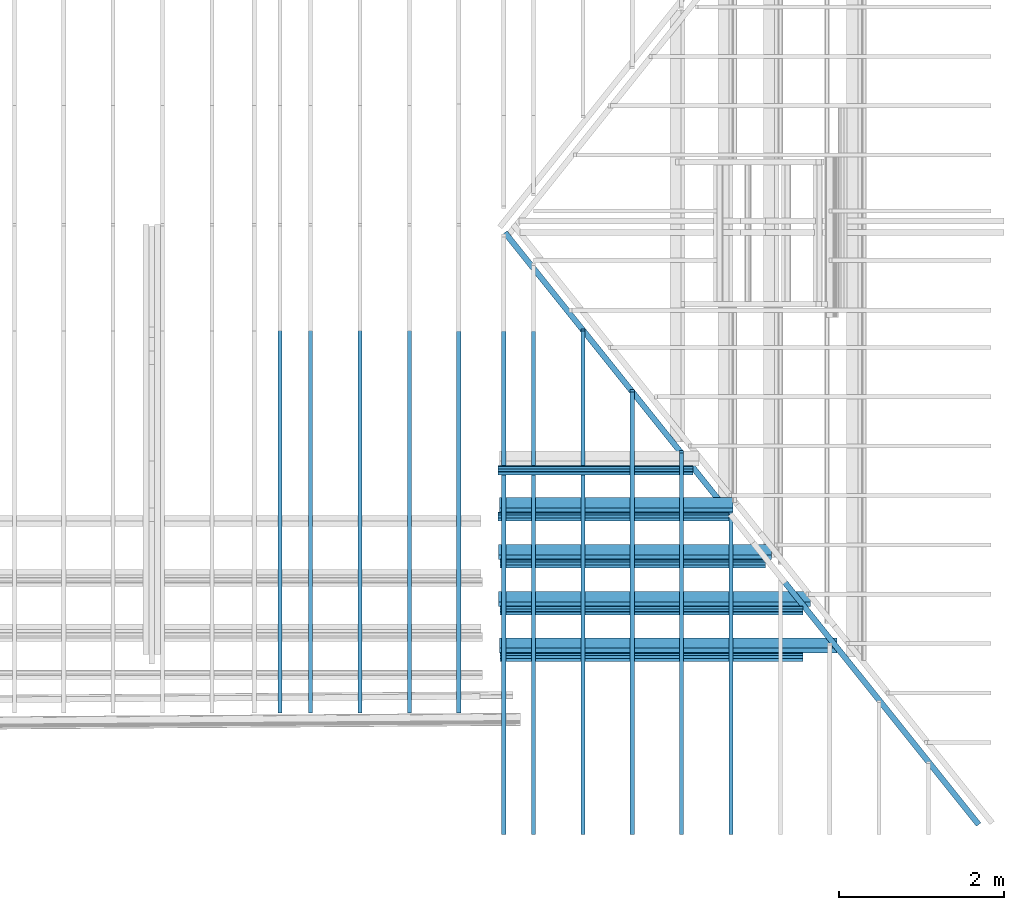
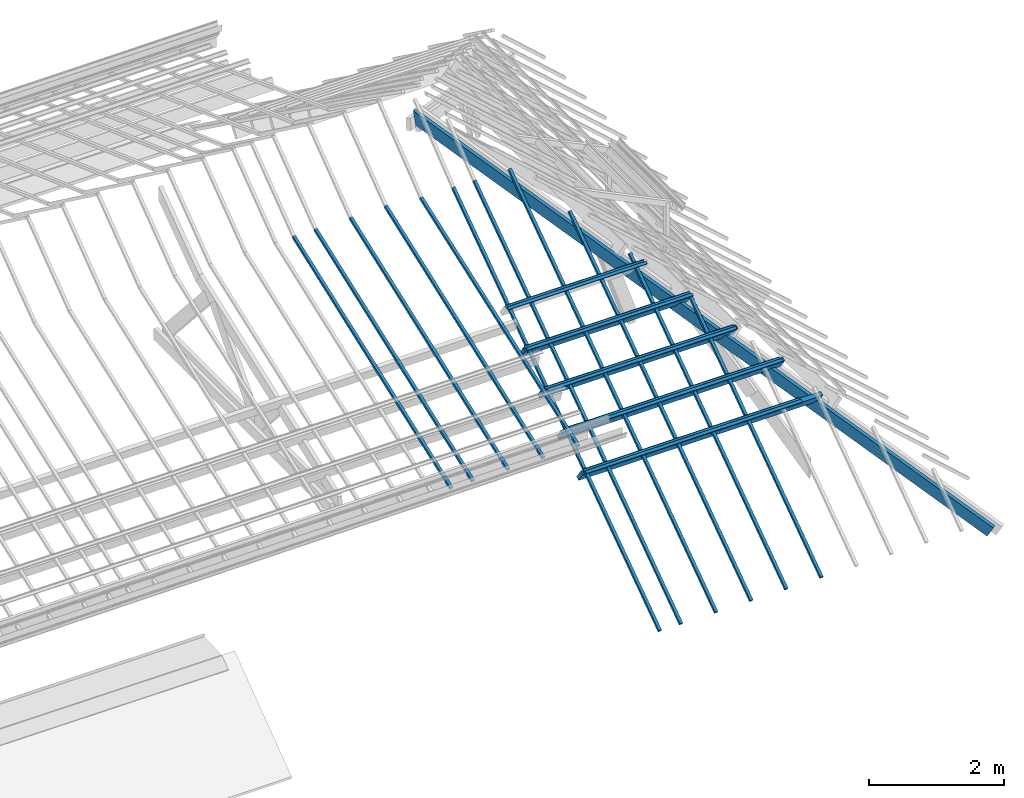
# One storey, part 10 of 18: 21 beams.
"""IFC2X3 building model written with IfcOpenShell, lengths in centimetres."""

from ifc_helpers import new_model, entity, si_unit, converted_unit, direction, frame, frame_2d, origin, origin_2d_with_axis, place, context, subcontext, project, spatial, polyline, circle_curve, parameter, trimmed, segment, composite_curve, rectangle, outline, extrude, clip, halfspace, material, type_object, element, save


model = new_model("IFC2X3")

# Units and contexts
model_context = context("Model", 3, precision=0.001, world=frame((0.0, 0.0, 13090.0)), true_north=direction((6.123233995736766e-17, 1.0)))
body_context = subcontext(model_context, "Body", "Model", "MODEL_VIEW")
ifc_project = project(units=[si_unit("LENGTHUNIT", "METRE", prefix="CENTI"), si_unit("AREAUNIT", "SQUARE_METRE"), si_unit("VOLUMEUNIT", "CUBIC_METRE"), converted_unit("PLANEANGLEUNIT", "DEGREE", entity("IfcPlaneAngleMeasure", 0.017453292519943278), si_unit("PLANEANGLEUNIT", "RADIAN"), dimensions=[0, 0, 0, 0, 0, 0, 0])], contexts=[model_context])

# Site, building, storey
site_placement = place(None, origin())
site = spatial("IfcSite", under=ifc_project, at=site_placement, Name="Default", CompositionType="ELEMENT")
building_placement = place(site_placement, origin())
building = spatial("IfcBuilding", under=site, at=building_placement, Name="e 39 logements et 22 maisons relais", CompositionType="ELEMENT")
storey_placement = place(building_placement, frame((0.0, 0.0, 610.0)))
storey = spatial("IfcBuildingStorey", under=building, at=storey_placement, Name="R+2", CompositionType="ELEMENT", Elevation=609.9999999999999)

# Beams
ifc_material_1 = material(Name="Bois - Bois de construction de dimensions courantes")
beam_type_1 = type_object("IfcBeamType", Name="Poutre - Bois de construction de dimensions courantes:70 220", PredefinedType="BEAM")
beam_1_placement = place(storey_placement, frame((286.63480771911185, -537.9764218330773, -101.94834767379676)))
element("IfcBeam", 1, at=beam_1_placement, inside=storey, type_object=beam_type_1, material=ifc_material_1, Name="Poutre - Bois de construction de dimensions courantes:70 220", ObjectType="Poutre - Bois de construction de dimensions courantes:70 220", context=body_context, shape_type="SweptSolid", body=[
    extrude(rectangle(XDim=21.999999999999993, YDim=7.000000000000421, at=frame_2d((4.440892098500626e-14, -3.086420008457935e-14), x_axis=(1.0, 0.0))), frame((322.5262084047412, 6.309340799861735, -9.010672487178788), z_axis=(1.0, 0.0, 0.0), x_axis=(0.0, -0.5735764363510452, 0.8191520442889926)), (0.0, 0.0, 1.0), 410.27423770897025),
])
beam_2_placement = place(storey_placement, frame((286.6348077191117, -481.59967238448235, -62.29634533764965)))
element("IfcBeam", 2, at=beam_2_placement, inside=storey, type_object=beam_type_1, material=ifc_material_1, Name="Poutre - Bois de construction de dimensions courantes:70 220", ObjectType="Poutre - Bois de construction de dimensions courantes:70 220", context=body_context, shape_type="SweptSolid", body=[
    extrude(rectangle(XDim=21.999999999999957, YDim=7.000000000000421, at=frame_2d((-6.039613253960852e-14, 9.325873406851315e-15), x_axis=(1.0, 0.0))), frame((321.2675552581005, 6.309340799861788, -9.010672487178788), z_axis=(1.0, 0.0, 0.0), x_axis=(0.0, -0.5735764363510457, 0.819152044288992)), (0.0, 0.0, 1.0), 379.18316140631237),
])
beam_3_placement = place(storey_placement, frame((286.634807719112, -424.59492606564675, -22.20264791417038)))
element("IfcBeam", 3, at=beam_3_placement, inside=storey, type_object=beam_type_1, material=ifc_material_1, Name="Poutre - Bois de construction de dimensions courantes:70 220", ObjectType="Poutre - Bois de construction de dimensions courantes:70 220", context=body_context, shape_type="SweptSolid", body=[
    extrude(rectangle(XDim=21.999999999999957, YDim=7.000000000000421, at=frame_2d((-6.039613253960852e-14, 9.325873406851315e-15), x_axis=(1.0, 0.0))), frame((321.26506323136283, 6.309340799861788, -9.010672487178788), z_axis=(1.0, 0.0, 0.0), x_axis=(0.0, -0.5735764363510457, 0.819152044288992)), (0.0, 0.0, 1.0), 332.0313144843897),
])
beam_4_placement = place(storey_placement, frame((287.2444077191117, -367.6594622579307, 17.842320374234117)))
element("IfcBeam", 4, at=beam_4_placement, inside=storey, type_object=beam_type_1, material=ifc_material_1, Name="Poutre - Bois de construction de dimensions courantes:70 220", ObjectType="Poutre - Bois de construction de dimensions courantes:70 220", context=body_context, shape_type="SweptSolid", body=[
    extrude(rectangle(XDim=21.999999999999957, YDim=7.000000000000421, at=frame_2d((6.039613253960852e-14, -8.881784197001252e-15), x_axis=(1.0, 0.0))), frame((321.9166084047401, 6.309340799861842, -9.010672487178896), z_axis=(1.0, 0.0, 0.0), x_axis=(0.0, -0.5735764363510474, 0.8191520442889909)), (0.0, 0.0, 1.0), 283.8100221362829),
])
beam_type_2 = type_object("IfcBeamType", Name="Poutre - Bois de construction de dimensions courantes:70 200", PredefinedType="BEAM")
beam_5_placement = place(storey_placement, frame((944.9774638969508, -441.27050194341, 41.26438352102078), z_axis=(0.30661229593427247, -0.3831192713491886, 0.8713257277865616), x_axis=(-0.5444394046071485, 0.6802898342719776, 0.49070508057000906)))
element("IfcBeam", 5, at=beam_5_placement, inside=storey, type_object=beam_type_2, material=ifc_material_1, Name="Poutre - Bois de construction de dimensions courantes:70 200", ObjectType="Poutre - Bois de construction de dimensions courantes:70 200", context=body_context, shape_type="Clipping", body=[
    clip(extrude(rectangle(XDim=20.000000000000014, YDim=7.0000000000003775, at=origin_2d_with_axis()), frame((-499.21667438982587, 0.0, -92.0), z_axis=(1.0, 0.0, 0.0), x_axis=(0.0, 0.0, -1.0)), (0.0, 0.0, 1.0), 1057.6298341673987), halfspace(frame((585.5654339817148, -1077.2700708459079, -48.048633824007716), z_axis=(0.780967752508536, 0.0, -0.6245713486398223), x_axis=(0.0, 1.0, 0.0)), False)),
])
ifc_material_2 = material(Name="neuf")
beam_type_3 = type_object("IfcBeamType", Name="panne z:panne z", PredefinedType="BEAM")
beam_6_placement = place(storey_placement, frame((286.63480771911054, -490.78321087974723, -53.0164760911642)))
element("IfcBeam", 6, at=beam_6_placement, inside=storey, type_object=beam_type_3, material=ifc_material_2, Name="panne z:panne z", ObjectType="panne z:panne z", context=body_context, shape_type="SweptSolid", body=[
    extrude(outline(composite_curve([segment(trimmed(circle_curve(frame_2d((-0.30000000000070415, 2.60000000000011), x_axis=(1.0, 0.0)), 0.39999999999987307), [parameter(0.0)], [parameter(90.00000000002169)], True, "PARAMETER"), True, "CONTINUOUS"), segment(polyline([(-0.3000000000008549, 3.0), (-4.600000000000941, 3.0)]), True, "CONTINUOUS"), segment(trimmed(circle_curve(frame_2d((-4.600000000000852, 2.599999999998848), x_axis=(0.0, 1.0)), 0.399999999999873), [parameter(0.0)], [parameter(90.00000000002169)], True, "PARAMETER"), True, "CONTINUOUS"), segment(polyline([(-5.0, 2.599999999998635), (-5.0, 1.0)]), True, "CONTINUOUS"), segment(polyline([(-5.0, 1.0), (-4.800000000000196, 1.0)]), True, "CONTINUOUS"), segment(polyline([(-4.800000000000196, 1.0), (-4.800000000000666, 2.5999999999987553)]), True, "CONTINUOUS"), segment(trimmed(circle_curve(frame_2d((-4.6000000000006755, 2.5999999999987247), x_axis=(-1.0, 0.0)), 0.20000000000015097), [parameter(270.0000000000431)], [parameter(0.0)], True, "PARAMETER"), False, "CONTINUOUS"), segment(polyline([(-4.6000000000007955, 2.7999999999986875), (-0.300000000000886, 2.799999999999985)]), True, "CONTINUOUS"), segment(trimmed(circle_curve(frame_2d((-0.30000000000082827, 2.5999999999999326), x_axis=(0.0, 1.0)), 0.20000000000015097), [parameter(270.0000000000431)], [parameter(0.0)], True, "PARAMETER"), False, "CONTINUOUS"), segment(polyline([(-0.10000000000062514, 2.600000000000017), (-0.0999999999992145, -2.5999999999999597)]), True, "CONTINUOUS"), segment(trimmed(circle_curve(frame_2d((0.300000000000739, -2.5999999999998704), x_axis=(-1.0, 0.0)), 0.3999999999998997), [parameter(0.0)], [parameter(90.00000000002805)], True, "PARAMETER"), True, "CONTINUOUS"), segment(polyline([(0.3000000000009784, -3.0), (4.600000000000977, -3.0)]), True, "CONTINUOUS"), segment(trimmed(circle_curve(frame_2d((4.6000000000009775, -2.599999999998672), x_axis=(0.0, -1.0)), 0.39999999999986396), [parameter(0.0)], [parameter(90.00000000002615)], True, "PARAMETER"), True, "CONTINUOUS"), segment(polyline([(5.0, -2.59999999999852), (5.0, -1.0)]), True, "CONTINUOUS"), segment(polyline([(5.0, -1.0), (4.800000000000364, -1.0)]), True, "CONTINUOUS"), segment(polyline([(4.8000000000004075, -1.0), (4.800000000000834, -2.5999999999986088)]), True, "CONTINUOUS"), segment(trimmed(circle_curve(frame_2d((4.600000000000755, -2.5999999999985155), x_axis=(1.0, 0.0)), 0.20000000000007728), [parameter(270.00000000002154)], [parameter(0.0)], True, "PARAMETER"), False, "CONTINUOUS"), segment(polyline([(4.600000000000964, -2.799999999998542), (0.3000000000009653, -2.799999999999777)]), True, "CONTINUOUS"), segment(trimmed(circle_curve(frame_2d((0.3000000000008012, -2.5999999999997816), x_axis=(0.0, -1.0)), 0.2000000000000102), [parameter(270.00000000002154)], [parameter(0.0)], True, "PARAMETER"), False, "CONTINUOUS"), segment(polyline([(0.10000000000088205, -2.5999999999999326), (0.09999999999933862, 2.6000000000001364)]), True, "CONTINUOUS")], self_intersect=False)), frame((323.098805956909, 1.538580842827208, -2.197321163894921), z_axis=(1.0, 0.0, 0.0), x_axis=(0.0, 0.8191520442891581, 0.5735764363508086)), (0.0, 0.0, 1.0), 368.7186327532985),
])
beam_7_placement = place(storey_placement, frame((286.6348077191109, -433.80298573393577, -13.236448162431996)))
element("IfcBeam", 7, at=beam_7_placement, inside=storey, type_object=beam_type_3, material=ifc_material_2, Name="panne z:panne z", ObjectType="panne z:panne z", context=body_context, shape_type="SweptSolid", body=[
    extrude(outline(composite_curve([segment(trimmed(circle_curve(frame_2d((-0.30000000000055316, 2.6000000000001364), x_axis=(1.0, 0.0)), 0.3999999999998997), [parameter(0.0)], [parameter(90.00000000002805)], True, "PARAMETER"), True, "CONTINUOUS"), segment(polyline([(-0.3000000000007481, 3.0), (-4.600000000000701, 3.0)]), True, "CONTINUOUS"), segment(trimmed(circle_curve(frame_2d((-4.600000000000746, 2.599999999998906), x_axis=(0.0, 1.0)), 0.39999999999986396), [parameter(0.0)], [parameter(90.00000000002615)], True, "PARAMETER"), True, "CONTINUOUS"), segment(polyline([(-5.0, 2.5999999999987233), (-5.0, 1.0)]), True, "CONTINUOUS"), segment(polyline([(-5.0, 1.0), (-4.8000000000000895, 1.0)]), True, "CONTINUOUS"), segment(polyline([(-4.8000000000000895, 1.0), (-4.800000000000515, 2.599999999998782)]), True, "CONTINUOUS"), segment(trimmed(circle_curve(frame_2d((-4.600000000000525, 2.5999999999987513), x_axis=(-1.0, 0.0)), 0.20000000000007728), [parameter(270.00000000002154)], [parameter(0.0)], True, "PARAMETER"), False, "CONTINUOUS"), segment(polyline([(-4.600000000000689, 2.7999999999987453), (-0.3000000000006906, 2.7999999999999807)]), True, "CONTINUOUS"), segment(trimmed(circle_curve(frame_2d((-0.3000000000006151, 2.600000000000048), x_axis=(0.0, 1.0)), 0.2000000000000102), [parameter(270.00000000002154)], [parameter(0.0)], True, "PARAMETER"), False, "CONTINUOUS"), segment(polyline([(-0.10000000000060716, 2.600000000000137), (-0.09999999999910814, -2.599999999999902)]), True, "CONTINUOUS"), segment(trimmed(circle_curve(frame_2d((0.3000000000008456, -2.5999999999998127), x_axis=(-1.0, 0.0)), 0.3999999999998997), [parameter(0.0)], [parameter(90.00000000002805)], True, "PARAMETER"), True, "CONTINUOUS"), segment(polyline([(0.30000000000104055, -3.0), (4.600000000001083, -3.0)]), True, "CONTINUOUS"), segment(trimmed(circle_curve(frame_2d((4.600000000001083, -2.599999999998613), x_axis=(0.0, -1.0)), 0.39999999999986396), [parameter(0.0)], [parameter(90.00000000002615)], True, "PARAMETER"), True, "CONTINUOUS"), segment(polyline([(5.0, -2.599999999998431), (5.0, -1.0)]), True, "CONTINUOUS"), segment(polyline([(5.0, -1.0), (4.80000000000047, -1.0)]), True, "CONTINUOUS"), segment(polyline([(4.80000000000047, -1.0), (4.80000000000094, -2.599999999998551)]), True, "CONTINUOUS"), segment(trimmed(circle_curve(frame_2d((4.600000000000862, -2.5999999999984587), x_axis=(1.0, 0.0)), 0.20000000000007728), [parameter(270.00000000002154)], [parameter(0.0)], True, "PARAMETER"), False, "CONTINUOUS"), segment(polyline([(4.60000000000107, -2.7999999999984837), (0.30000000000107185, -2.799999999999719)]), True, "CONTINUOUS"), segment(trimmed(circle_curve(frame_2d((0.30000000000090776, -2.599999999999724), x_axis=(0.0, -1.0)), 0.2000000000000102), [parameter(270.00000000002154)], [parameter(0.0)], True, "PARAMETER"), False, "CONTINUOUS"), segment(polyline([(0.10000000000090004, -2.599999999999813), (0.0999999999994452, 2.600000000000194)]), True, "CONTINUOUS")], self_intersect=False)), frame((323.0988059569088, 1.5385808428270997, -2.197321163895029), z_axis=(1.0, 0.0, 0.0), x_axis=(0.0, 0.8191520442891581, 0.5735764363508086)), (0.0, 0.0, 1.0), 322.78501141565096),
])
beam_8_placement = place(storey_placement, frame((286.63480771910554, -376.7336563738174, 26.966029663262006)))
element("IfcBeam", 8, at=beam_8_placement, inside=storey, type_object=beam_type_3, material=ifc_material_2, Name="panne z:panne z", ObjectType="panne z:panne z", context=body_context, shape_type="SweptSolid", body=[
    extrude(outline(composite_curve([segment(trimmed(circle_curve(frame_2d((-0.3000000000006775, 2.5999999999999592), x_axis=(1.0, 0.0)), 0.3999999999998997), [parameter(0.0)], [parameter(90.00000000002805)], True, "PARAMETER"), True, "CONTINUOUS"), segment(polyline([(-0.3000000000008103, 3.0), (-4.60000000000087, 3.0)]), True, "CONTINUOUS"), segment(trimmed(circle_curve(frame_2d((-4.60000000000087, 2.599999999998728), x_axis=(0.0, 1.0)), 0.39999999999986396), [parameter(0.0)], [parameter(90.00000000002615)], True, "PARAMETER"), True, "CONTINUOUS"), segment(polyline([(-5.0, 2.5999999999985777), (-5.0, 1.0)]), True, "CONTINUOUS"), segment(polyline([(-5.0, 1.0), (-4.800000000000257, 1.0)]), True, "CONTINUOUS"), segment(polyline([(-4.800000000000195, 1.0), (-4.800000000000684, 2.5999999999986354)]), True, "CONTINUOUS"), segment(trimmed(circle_curve(frame_2d((-4.600000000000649, 2.5999999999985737), x_axis=(-1.0, 0.0)), 0.20000000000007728), [parameter(270.00000000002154)], [parameter(0.0)], True, "PARAMETER"), False, "CONTINUOUS"), segment(polyline([(-4.600000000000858, 2.7999999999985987), (-0.30000000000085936, 2.799999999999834)]), True, "CONTINUOUS"), segment(trimmed(circle_curve(frame_2d((-0.30000000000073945, 2.5999999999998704), x_axis=(0.0, 1.0)), 0.2000000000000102), [parameter(270.00000000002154)], [parameter(0.0)], True, "PARAMETER"), False, "CONTINUOUS"), segment(polyline([(-0.10000000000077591, 2.59999999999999), (-0.09999999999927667, -2.6000000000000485)]), True, "CONTINUOUS"), segment(trimmed(circle_curve(frame_2d((0.30000000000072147, -2.5999999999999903), x_axis=(-1.0, 0.0)), 0.3999999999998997), [parameter(0.0)], [parameter(90.00000000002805)], True, "PARAMETER"), True, "CONTINUOUS"), segment(polyline([(0.3000000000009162, -3.0), (4.600000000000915, -3.0)]), True, "CONTINUOUS"), segment(trimmed(circle_curve(frame_2d((4.600000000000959, -2.599999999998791), x_axis=(0.0, -1.0)), 0.39999999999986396), [parameter(0.0)], [parameter(90.00000000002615)], True, "PARAMETER"), True, "CONTINUOUS"), segment(polyline([(5.0, -2.5999999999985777), (5.0, -1.0)]), True, "CONTINUOUS"), segment(polyline([(5.0, -1.0), (4.800000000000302, -1.0)]), True, "CONTINUOUS"), segment(polyline([(4.800000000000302, -1.0), (4.800000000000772, -2.599999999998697)]), True, "CONTINUOUS"), segment(trimmed(circle_curve(frame_2d((4.600000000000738, -2.5999999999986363), x_axis=(1.0, 0.0)), 0.20000000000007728), [parameter(270.00000000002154)], [parameter(0.0)], True, "PARAMETER"), False, "CONTINUOUS"), segment(polyline([(4.600000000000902, -2.7999999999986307), (0.3000000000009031, -2.7999999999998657)]), True, "CONTINUOUS"), segment(trimmed(circle_curve(frame_2d((0.3000000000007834, -2.5999999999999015), x_axis=(0.0, -1.0)), 0.2000000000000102), [parameter(270.00000000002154)], [parameter(0.0)], True, "PARAMETER"), False, "CONTINUOUS"), segment(polyline([(0.10000000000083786, -2.599999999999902), (0.09999999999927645, 2.6000000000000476)]), True, "CONTINUOUS")], self_intersect=False)), frame((320.6152120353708, 1.5385808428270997, -2.1973211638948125), z_axis=(1.0, 0.0, 0.0), x_axis=(0.0, 0.8191520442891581, 0.5735764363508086)), (0.0, 0.0, 1.0), 283.33649825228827),
])
beam_9_placement = place(storey_placement, frame((286.6348077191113, -320.5505112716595, 66.48501889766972)))
element("IfcBeam", 9, at=beam_9_placement, inside=storey, type_object=beam_type_3, material=ifc_material_2, Name="panne z:panne z", ObjectType="panne z:panne z", context=body_context, shape_type="SweptSolid", body=[
    extrude(outline(composite_curve([segment(trimmed(circle_curve(frame_2d((-0.3000000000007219, 2.59999999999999), x_axis=(1.0, 0.0)), 0.3999999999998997), [parameter(0.0)], [parameter(90.00000000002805)], True, "PARAMETER"), True, "CONTINUOUS"), segment(polyline([(-0.30000000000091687, 3.0), (-4.6000000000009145, 3.0)]), True, "CONTINUOUS"), segment(trimmed(circle_curve(frame_2d((-4.6000000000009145, 2.5999999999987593), x_axis=(0.0, 1.0)), 0.39999999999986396), [parameter(0.0)], [parameter(90.00000000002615)], True, "PARAMETER"), True, "CONTINUOUS"), segment(polyline([(-5.0, 2.5999999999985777), (-5.0, 1.0)]), True, "CONTINUOUS"), segment(polyline([(-5.0, 1.0), (-4.800000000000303, 1.0)]), True, "CONTINUOUS"), segment(polyline([(-4.800000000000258, 1.0), (-4.800000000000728, 2.5999999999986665)]), True, "CONTINUOUS"), segment(trimmed(circle_curve(frame_2d((-4.600000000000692, 2.599999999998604), x_axis=(-1.0, 0.0)), 0.20000000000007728), [parameter(270.00000000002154)], [parameter(0.0)], True, "PARAMETER"), False, "CONTINUOUS"), segment(polyline([(-4.600000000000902, 2.79999999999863), (-0.30000000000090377, 2.7999999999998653)]), True, "CONTINUOUS"), segment(trimmed(circle_curve(frame_2d((-0.30000000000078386, 2.5999999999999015), x_axis=(0.0, 1.0)), 0.2000000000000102), [parameter(270.00000000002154)], [parameter(0.0)], True, "PARAMETER"), False, "CONTINUOUS"), segment(polyline([(-0.1000000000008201, 2.600000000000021), (-0.09999999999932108, -2.6000000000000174)]), True, "CONTINUOUS"), segment(trimmed(circle_curve(frame_2d((0.30000000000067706, -2.5999999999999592), x_axis=(-1.0, 0.0)), 0.3999999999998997), [parameter(0.0)], [parameter(90.00000000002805)], True, "PARAMETER"), True, "CONTINUOUS"), segment(polyline([(0.3000000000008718, -3.0), (4.60000000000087, -3.0)]), True, "CONTINUOUS"), segment(trimmed(circle_curve(frame_2d((4.600000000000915, -2.5999999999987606), x_axis=(0.0, -1.0)), 0.39999999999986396), [parameter(0.0)], [parameter(90.00000000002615)], True, "PARAMETER"), True, "CONTINUOUS"), segment(polyline([(5.0, -2.5999999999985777), (5.0, -1.0)]), True, "CONTINUOUS"), segment(polyline([(5.0, -1.0), (4.8000000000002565, -1.0)]), True, "CONTINUOUS"), segment(polyline([(4.800000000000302, -1.0), (4.800000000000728, -2.5999999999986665)]), True, "CONTINUOUS"), segment(trimmed(circle_curve(frame_2d((4.600000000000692, -2.5999999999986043), x_axis=(1.0, 0.0)), 0.20000000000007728), [parameter(270.00000000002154)], [parameter(0.0)], True, "PARAMETER"), False, "CONTINUOUS"), segment(polyline([(4.600000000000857, -2.799999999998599), (0.3000000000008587, -2.7999999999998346)]), True, "CONTINUOUS"), segment(trimmed(circle_curve(frame_2d((0.300000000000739, -2.5999999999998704), x_axis=(0.0, -1.0)), 0.2000000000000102), [parameter(270.00000000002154)], [parameter(0.0)], True, "PARAMETER"), False, "CONTINUOUS"), segment(polyline([(0.10000000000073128, -2.5999999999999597), (0.09999999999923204, 2.6000000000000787)]), True, "CONTINUOUS")], self_intersect=False)), frame((320.6152120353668, 1.538580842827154, -2.1973211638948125), z_axis=(1.0, 0.0, 0.0), x_axis=(0.0, 0.8191520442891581, 0.5735764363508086)), (0.0, 0.0, 1.0), 237.13575722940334),
])
beam_10_placement = place(storey_placement, frame((286.6348077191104, -547.3866171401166, -92.65060784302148)))
element("IfcBeam", 10, at=beam_10_placement, inside=storey, type_object=beam_type_3, material=ifc_material_2, Name="panne z:panne z", ObjectType="panne z:panne z", context=body_context, shape_type="SweptSolid", body=[
    extrude(outline(composite_curve([segment(trimmed(circle_curve(frame_2d((-0.30000000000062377, 2.5999999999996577), x_axis=(1.0, 0.0)), 0.39999999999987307), [parameter(0.0)], [parameter(90.00000000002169)], True, "PARAMETER"), True, "CONTINUOUS"), segment(polyline([(-0.30000000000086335, 3.0), (-4.600000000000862, 3.0)]), True, "CONTINUOUS"), segment(trimmed(circle_curve(frame_2d((-4.600000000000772, 2.599999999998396), x_axis=(0.0, 1.0)), 0.399999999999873), [parameter(0.0)], [parameter(90.00000000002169)], True, "PARAMETER"), True, "CONTINUOUS"), segment(polyline([(-5.0, 2.5999999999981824), (-5.0, 1.0)]), True, "CONTINUOUS"), segment(polyline([(-5.0, 1.0), (-4.800000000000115, 1.0)]), True, "CONTINUOUS"), segment(polyline([(-4.800000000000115, 1.0), (-4.800000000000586, 2.599999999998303)]), True, "CONTINUOUS"), segment(trimmed(circle_curve(frame_2d((-4.600000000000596, 2.599999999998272), x_axis=(-1.0, 0.0)), 0.20000000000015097), [parameter(270.0000000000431)], [parameter(0.0)], True, "PARAMETER"), False, "CONTINUOUS"), segment(polyline([(-4.600000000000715, 2.799999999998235), (-0.3000000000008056, 2.7999999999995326)]), True, "CONTINUOUS"), segment(trimmed(circle_curve(frame_2d((-0.3000000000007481, 2.59999999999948), x_axis=(0.0, 1.0)), 0.20000000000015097), [parameter(270.0000000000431)], [parameter(0.0)], True, "PARAMETER"), False, "CONTINUOUS"), segment(polyline([(-0.10000000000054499, 2.5999999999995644), (-0.09999999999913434, -2.6000000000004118)]), True, "CONTINUOUS"), segment(trimmed(circle_curve(frame_2d((0.30000000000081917, -2.600000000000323), x_axis=(-1.0, 0.0)), 0.39999999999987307), [parameter(0.0)], [parameter(90.00000000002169)], True, "PARAMETER"), True, "CONTINUOUS"), segment(polyline([(0.30000000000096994, -3.0), (4.600000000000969, -3.0)]), True, "CONTINUOUS"), segment(trimmed(circle_curve(frame_2d((4.600000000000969, -2.5999999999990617), x_axis=(0.0, -1.0)), 0.399999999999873), [parameter(0.0)], [parameter(90.00000000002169)], True, "PARAMETER"), True, "CONTINUOUS"), segment(polyline([(5.0, -2.599999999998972), (5.0, -1.0)]), True, "CONTINUOUS"), segment(polyline([(5.0, -1.0), (4.8000000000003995, -1.0)]), True, "CONTINUOUS"), segment(polyline([(4.800000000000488, -1.0), (4.800000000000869, -2.59999999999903)]), True, "CONTINUOUS"), segment(trimmed(circle_curve(frame_2d((4.600000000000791, -2.5999999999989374), x_axis=(1.0, 0.0)), 0.20000000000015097), [parameter(270.0000000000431)], [parameter(0.0)], True, "PARAMETER"), False, "CONTINUOUS"), segment(polyline([(4.600000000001, -2.799999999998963), (0.3000000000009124, -2.8000000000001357)]), True, "CONTINUOUS"), segment(trimmed(circle_curve(frame_2d((0.3000000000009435, -2.6000000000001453), x_axis=(0.0, -1.0)), 0.20000000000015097), [parameter(270.0000000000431)], [parameter(0.0)], True, "PARAMETER"), False, "CONTINUOUS"), segment(polyline([(0.1000000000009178, -2.600000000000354), (0.09999999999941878, 2.5999999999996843)]), True, "CONTINUOUS")], self_intersect=False)), frame((323.0988059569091, 1.538580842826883, -2.197321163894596), z_axis=(1.0, 0.0, 0.0), x_axis=(0.0, 0.8191520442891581, 0.5735764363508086)), (0.0, 0.0, 1.0), 368.7186327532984),
])
beam_type_4 = type_object("IfcBeamType", Name="Poutre - Bois de construction de dimensions courantes:50 50", PredefinedType="BEAM")
beam_11_placement = place(storey_placement, frame((650.5865180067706, -640.4430555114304, -83.54673279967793), z_axis=(0.0, -0.5752942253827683, 0.8179465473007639), x_axis=(0.0, 0.8179465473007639, 0.5752942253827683)))
element("IfcBeam", 11, at=beam_11_placement, inside=storey, type_object=beam_type_4, material=ifc_material_1, Name="Poutre - Bois de construction de dimensions courantes:50 50", ObjectType="Poutre - Bois de construction de dimensions courantes:50 50", context=body_context, shape_type="SweptSolid", body=[
    extrude(rectangle(XDim=4.999999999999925, YDim=5.000000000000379, at=frame_2d((-2.19824158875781e-14, -1.0835776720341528e-13), x_axis=(1.0, 0.0))), frame((-196.3504280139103, 0.0, -71.5000000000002), z_axis=(1.0, 0.0, 0.0), x_axis=(0.0, 0.0, -1.0)), (0.0, 0.0, 1.0), 747.5223097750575),
])
beam_12_placement = place(storey_placement, frame((439.85901227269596, -682.4540034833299, 59.79760523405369), z_axis=(0.0, -0.34610942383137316, 0.9381941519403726), x_axis=(0.0, 0.9381941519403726, 0.34610942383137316)))
element("IfcBeam", 12, at=beam_12_placement, inside=storey, type_object=beam_type_4, material=ifc_material_1, Name="Poutre - Bois de construction de dimensions courantes:50 50", ObjectType="Poutre - Bois de construction de dimensions courantes:50 50", context=body_context, shape_type="SweptSolid", body=[
    extrude(rectangle(XDim=4.999999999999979, YDim=5.000000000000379, at=frame_2d((0.0, -5.417888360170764e-14), x_axis=(1.0, 0.0))), frame((47.46098828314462, 0.0, -71.5000000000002), z_axis=(1.0, 0.0, 0.0), x_axis=(0.0, 0.0, -1.0)), (0.0, 0.0, 1.0), 496.5080480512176),
])
beam_13_placement = place(storey_placement, frame((379.85901227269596, -682.4540034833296, 59.79760523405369), z_axis=(0.0, -0.34610942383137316, 0.9381941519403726), x_axis=(0.0, 0.9381941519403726, 0.34610942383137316)))
element("IfcBeam", 13, at=beam_13_placement, inside=storey, type_object=beam_type_4, material=ifc_material_1, Name="Poutre - Bois de construction de dimensions courantes:50 50", ObjectType="Poutre - Bois de construction de dimensions courantes:50 50", context=body_context, shape_type="SweptSolid", body=[
    extrude(rectangle(XDim=4.999999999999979, YDim=5.000000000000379, at=frame_2d((0.0, -5.417888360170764e-14), x_axis=(1.0, 0.0))), frame((47.46098828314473, 0.0, -71.50000000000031), z_axis=(1.0, 0.0, 0.0), x_axis=(0.0, 0.0, -1.0)), (0.0, 0.0, 1.0), 496.5080480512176),
])
beam_14_placement = place(storey_placement, frame((559.859012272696, -681.9701680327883, 60.42611096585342), z_axis=(0.0, -0.3369912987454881, 0.941507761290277), x_axis=(0.0, 0.941507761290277, 0.3369912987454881)))
element("IfcBeam", 14, at=beam_14_placement, inside=storey, type_object=beam_type_4, material=ifc_material_1, Name="Poutre - Bois de construction de dimensions courantes:50 50", ObjectType="Poutre - Bois de construction de dimensions courantes:50 50", context=body_context, shape_type="SweptSolid", body=[
    extrude(rectangle(XDim=5.000000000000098, YDim=5.000000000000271, at=frame_2d((5.084821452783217e-14, 5.417888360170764e-14), x_axis=(1.0, 0.0))), frame((47.46098828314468, 0.0, -71.5000000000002), z_axis=(1.0, 0.0, 0.0), x_axis=(0.0, 0.0, -1.0)), (0.0, 0.0, 1.0), 494.02431137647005),
])
beam_15_placement = place(storey_placement, frame((499.8590122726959, -682.4540034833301, 59.79760523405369), z_axis=(0.0, -0.34610942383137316, 0.9381941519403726), x_axis=(0.0, 0.9381941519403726, 0.34610942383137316)))
element("IfcBeam", 15, at=beam_15_placement, inside=storey, type_object=beam_type_4, material=ifc_material_1, Name="Poutre - Bois de construction de dimensions courantes:50 50", ObjectType="Poutre - Bois de construction de dimensions courantes:50 50", context=body_context, shape_type="SweptSolid", body=[
    extrude(rectangle(XDim=4.999999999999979, YDim=5.000000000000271, at=frame_2d((0.0, -5.417888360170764e-14), x_axis=(1.0, 0.0))), frame((47.46098828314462, 0.0, -71.50000000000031), z_axis=(1.0, 0.0, 0.0), x_axis=(0.0, 0.0, -1.0)), (0.0, 0.0, 1.0), 496.5080480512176),
])
beam_16_placement = place(storey_placement, frame((342.7505189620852, -682.4540034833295, 59.79760523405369), z_axis=(0.0, -0.34610942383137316, 0.9381941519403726), x_axis=(0.0, 0.9381941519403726, 0.34610942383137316)))
element("IfcBeam", 16, at=beam_16_placement, inside=storey, type_object=beam_type_4, material=ifc_material_1, Name="Poutre - Bois de construction de dimensions courantes:50 50", ObjectType="Poutre - Bois de construction de dimensions courantes:50 50", context=body_context, shape_type="SweptSolid", body=[
    extrude(rectangle(XDim=4.999999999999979, YDim=5.000000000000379, at=frame_2d((1.887379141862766e-14, 0.0), x_axis=(1.0, 0.0))), frame((47.460988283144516, 0.0, -71.5000000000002), z_axis=(1.0, 0.0, 0.0), x_axis=(0.0, 0.0, -1.0)), (0.0, 0.0, 1.0), 496.5080480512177),
])
beam_17_placement = place(storey_placement, frame((710.5865180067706, -640.4430555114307, -83.54673279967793), z_axis=(0.0, -0.5752942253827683, 0.8179465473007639), x_axis=(0.0, 0.8179465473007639, 0.5752942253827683)))
element("IfcBeam", 17, at=beam_17_placement, inside=storey, type_object=beam_type_4, material=ifc_material_1, Name="Poutre - Bois de construction de dimensions courantes:50 50", ObjectType="Poutre - Bois de construction de dimensions courantes:50 50", context=body_context, shape_type="SweptSolid", body=[
    extrude(rectangle(XDim=4.999999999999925, YDim=5.000000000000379, at=frame_2d((-2.19824158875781e-14, 0.0), x_axis=(1.0, 0.0))), frame((-196.3504280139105, 0.0, -71.50000000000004), z_axis=(1.0, 0.0, 0.0), x_axis=(0.0, 0.0, -1.0)), (0.0, 0.0, 1.0), 747.5223097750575),
])
beam_18_placement = place(storey_placement, frame((770.5865180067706, -640.4430555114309, -83.54673279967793), z_axis=(0.0, -0.5752942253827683, 0.8179465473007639), x_axis=(0.0, 0.8179465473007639, 0.5752942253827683)))
element("IfcBeam", 18, at=beam_18_placement, inside=storey, type_object=beam_type_4, material=ifc_material_1, Name="Poutre - Bois de construction de dimensions courantes:50 50", ObjectType="Poutre - Bois de construction de dimensions courantes:50 50", context=body_context, shape_type="SweptSolid", body=[
    extrude(rectangle(XDim=4.9999999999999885, YDim=5.000000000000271, at=frame_2d((-2.220446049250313e-14, 0.0), x_axis=(1.0, 0.0))), frame((-196.35042801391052, 0.0, -71.50000000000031), z_axis=(1.0, 0.0, 0.0), x_axis=(0.0, 0.0, -1.0)), (0.0, 0.0, 1.0), 657.1245271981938),
])
beam_19_placement = place(storey_placement, frame((830.5865180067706, -640.4430555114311, -83.54673279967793), z_axis=(0.0, -0.5752942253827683, 0.8179465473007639), x_axis=(0.0, 0.8179465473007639, 0.5752942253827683)))
element("IfcBeam", 19, at=beam_19_placement, inside=storey, type_object=beam_type_4, material=ifc_material_1, Name="Poutre - Bois de construction de dimensions courantes:50 50", ObjectType="Poutre - Bois de construction de dimensions courantes:50 50", context=body_context, shape_type="SweptSolid", body=[
    extrude(rectangle(XDim=5.000000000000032, YDim=5.000000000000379, at=frame_2d((4.39648317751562e-14, 1.0835776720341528e-13), x_axis=(1.0, 0.0))), frame((-196.35042801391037, 0.0, -71.50000000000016), z_axis=(1.0, 0.0, 0.0), x_axis=(0.0, 0.0, -1.0)), (0.0, 0.0, 1.0), 566.4256177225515),
])
beam_20_placement = place(storey_placement, frame((890.5865180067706, -640.4430555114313, -83.54673279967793), z_axis=(0.0, -0.5752942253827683, 0.8179465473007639), x_axis=(0.0, 0.8179465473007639, 0.5752942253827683)))
element("IfcBeam", 20, at=beam_20_placement, inside=storey, type_object=beam_type_4, material=ifc_material_1, Name="Poutre - Bois de construction de dimensions courantes:50 50", ObjectType="Poutre - Bois de construction de dimensions courantes:50 50", context=body_context, shape_type="SweptSolid", body=[
    extrude(rectangle(XDim=4.9999999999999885, YDim=5.000000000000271, at=frame_2d((-2.220446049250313e-14, 0.0), x_axis=(1.0, 0.0))), frame((-196.3504280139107, 0.0, -71.5000000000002), z_axis=(1.0, 0.0, 0.0), x_axis=(0.0, 0.0, -1.0)), (0.0, 0.0, 1.0), 475.3255509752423),
])
beam_21_placement = place(storey_placement, frame((614.4865180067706, -640.4430555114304, -83.54673279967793), z_axis=(0.0, -0.5752942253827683, 0.8179465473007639), x_axis=(0.0, 0.8179465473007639, 0.5752942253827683)))
element("IfcBeam", 21, at=beam_21_placement, inside=storey, type_object=beam_type_4, material=ifc_material_1, Name="Poutre - Bois de construction de dimensions courantes:50 50", ObjectType="Poutre - Bois de construction de dimensions courantes:50 50", context=body_context, shape_type="SweptSolid", body=[
    extrude(rectangle(XDim=4.999999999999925, YDim=5.000000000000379, at=frame_2d((-4.440892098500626e-14, -1.0835776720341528e-13), x_axis=(1.0, 0.0))), frame((-196.3504280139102, 0.0, -71.50000000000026), z_axis=(1.0, 0.0, 0.0), x_axis=(0.0, 0.0, -1.0)), (0.0, 0.0, 1.0), 747.5223097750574),
])

save(model, "model.ifc")
